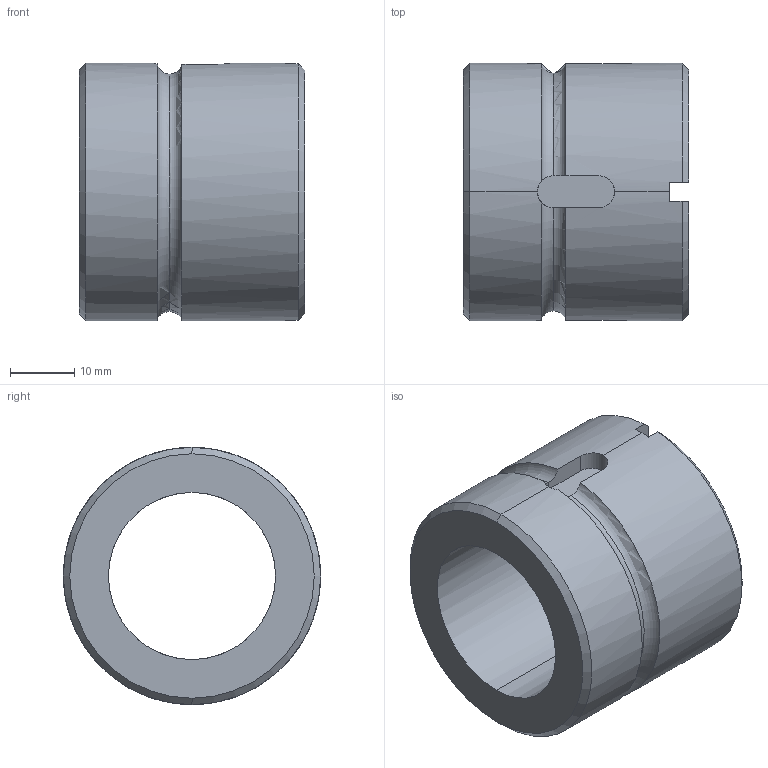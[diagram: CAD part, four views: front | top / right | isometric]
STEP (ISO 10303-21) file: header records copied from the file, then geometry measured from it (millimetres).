
FILE_DESCRIPTION (( 'STEP AP214' ), '1' );
FILE_NAME ('KGM-D 2520.STEP', '2021-01-19T01:17:00', ( 'user' ), ( 'datathink' ), 'SwSTEP 2.0', 'SolidWorks 2013', '' );
FILE_SCHEMA (( 'AUTOMOTIVE_DESIGN' ));
Length unit declared in the file: millimetre
Products named in the file (1): KGM-D 2520
Bounding box: 35 x 40 x 40 mm (x, y, z)
Volume: 24478.7 mm3; surface area: 8845.3 mm2
Topology: 1 solids, 1 shells, 29 faces, 80 edges, 51 vertices
Faces by surface type: plane 12, cylinder 11, cone 4, torus 2
Entity records: 1105 total; most frequent: CARTESIAN_POINT 329, ORIENTED_EDGE 160, DIRECTION 153, EDGE_CURVE 80, AXIS2_PLACEMENT_3D 59, VERTEX_POINT 51, LINE 35, VECTOR 35
